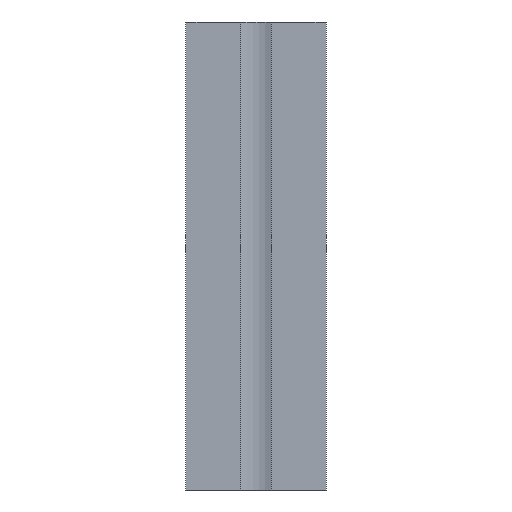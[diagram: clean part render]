
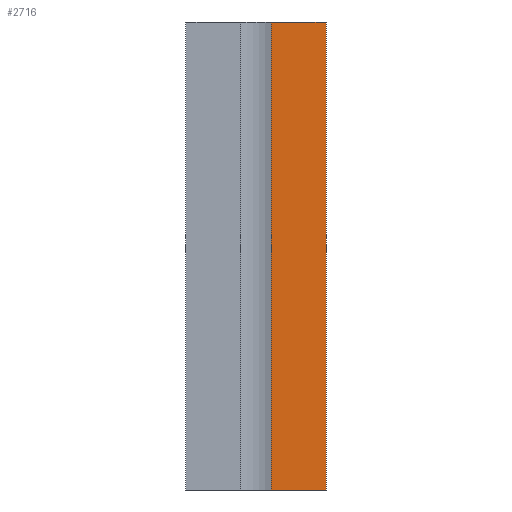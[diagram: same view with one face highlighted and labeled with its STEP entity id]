
A CAD part, front view. The second image highlights one B-rep face of the part: STEP entity #2716.
In plain terms, the highlighted planar face has unit normal (0, -1, 0).
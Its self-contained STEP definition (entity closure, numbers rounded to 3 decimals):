
#576=ORIENTED_EDGE('',*,*,#1223,.F.);
#577=ORIENTED_EDGE('',*,*,#1224,.F.);
#578=ORIENTED_EDGE('',*,*,#1225,.T.);
#579=ORIENTED_EDGE('',*,*,#1167,.F.);
#1167=EDGE_CURVE('',#1496,#1497,#1797,.T.);
#1223=EDGE_CURVE('',#1534,#1496,#1847,.T.);
#1224=EDGE_CURVE('',#1535,#1534,#1848,.T.);
#1225=EDGE_CURVE('',#1535,#1497,#1849,.T.);
#1496=VERTEX_POINT('',#4234);
#1497=VERTEX_POINT('',#4236);
#1534=VERTEX_POINT('',#4345);
#1535=VERTEX_POINT('',#4349);
#1797=LINE('',#4235,#2137);
#1847=LINE('',#4346,#2187);
#1848=LINE('',#4348,#2188);
#1849=LINE('',#4350,#2189);
#2137=VECTOR('',#3408,1000.);
#2187=VECTOR('',#3504,1000.);
#2188=VECTOR('',#3507,1000.);
#2189=VECTOR('',#3508,1000.);
#2327=EDGE_LOOP('',(#576,#577,#578,#579));
#2471=FACE_BOUND('',#2327,.T.);
#2602=PLANE('',#2899);
#2716=ADVANCED_FACE('',(#2471),#2602,.T.);
#2899=AXIS2_PLACEMENT_3D('',#4347,#3505,#3506);
#3408=DIRECTION('',(-1.,0.,0.));
#3504=DIRECTION('',(0.,0.,-1.));
#3505=DIRECTION('',(0.,-1.,0.));
#3506=DIRECTION('',(1.,0.,0.));
#3507=DIRECTION('',(1.,0.,0.));
#3508=DIRECTION('',(0.,0.,-1.));
#4234=CARTESIAN_POINT('',(15.,-15.,-50.));
#4235=CARTESIAN_POINT('',(15.,-15.,-50.));
#4236=CARTESIAN_POINT('',(3.25,-15.,-50.));
#4345=CARTESIAN_POINT('',(15.,-15.,50.));
#4346=CARTESIAN_POINT('',(15.,-15.,0.));
#4347=CARTESIAN_POINT('',(3.25,-15.,0.));
#4348=CARTESIAN_POINT('',(15.,-15.,50.));
#4349=CARTESIAN_POINT('',(3.25,-15.,50.));
#4350=CARTESIAN_POINT('',(3.25,-15.,0.));
